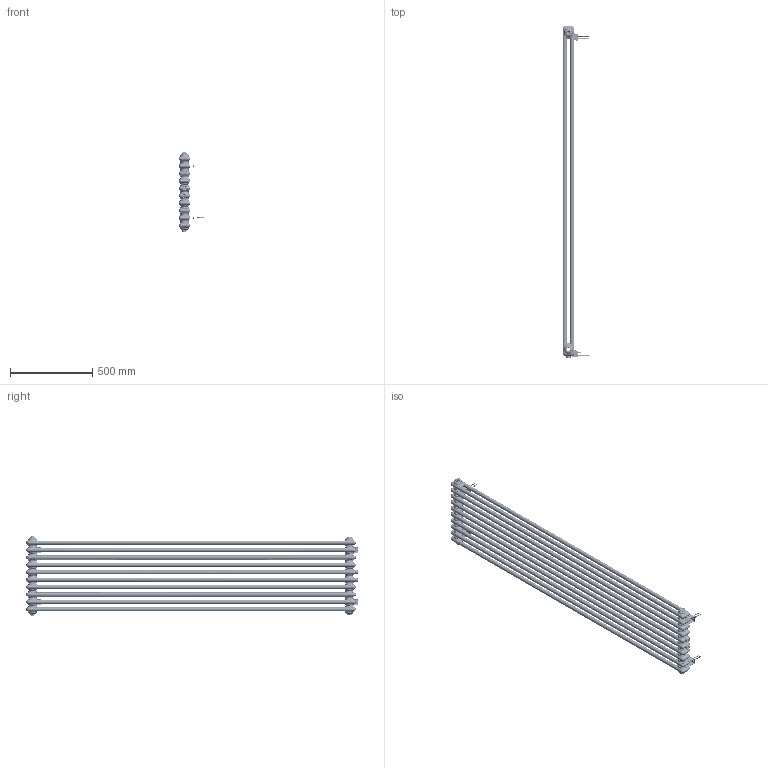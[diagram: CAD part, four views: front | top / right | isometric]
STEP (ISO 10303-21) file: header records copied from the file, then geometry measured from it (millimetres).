
FILE_DESCRIPTION(/* description */ (''),/* implementation_level */ '2;1');
FILE_NAME(/* name */ 'CL02 2000x470 D50',/* time_stamp */ '2023-09-09T16:15:32+08:00',/* author */ (''),/* organization */ (''),/* preprocessor_version */ 'ST-DEVELOPER v9',/* originating_system */ 'UGS - NX 4.0',/* authorisation */ '');
FILE_SCHEMA (('CONFIG_CONTROL_DESIGN'));
Products named in the file (1): AdmiF21Fozrs
Bounding box: 161.6 x 2016 x 482 mm (x, y, z)
Volume: 4605177.5 mm3; surface area: 6095942.5 mm2
Topology: 41 solids, 41 shells, 3917 faces, 9507 edges, 5689 vertices
Faces by surface type: bspline 1171, cylinder 983, plane 820, torus 580, cone 363
Full cylindrical faces by diameter (mm): 19 x2, 25 x2
Entity records: 248978 total; most frequent: CARTESIAN_POINT 166786, ORIENTED_EDGE 18978, DIRECTION 14897, EDGE_CURVE 9489, AXIS2_PLACEMENT_3D 6197, VERTEX_POINT 5691, EDGE_LOOP 4104, ADVANCED_FACE 3917
